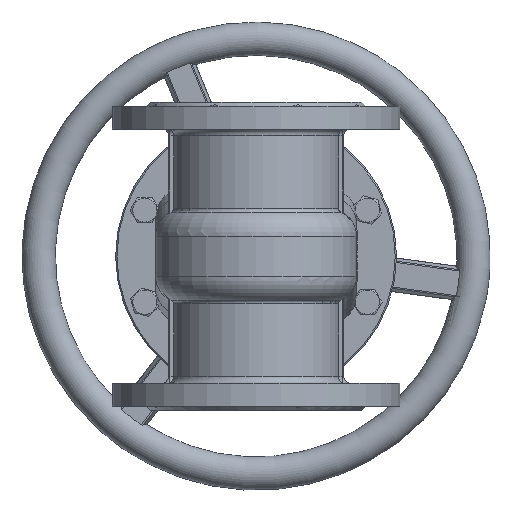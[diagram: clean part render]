
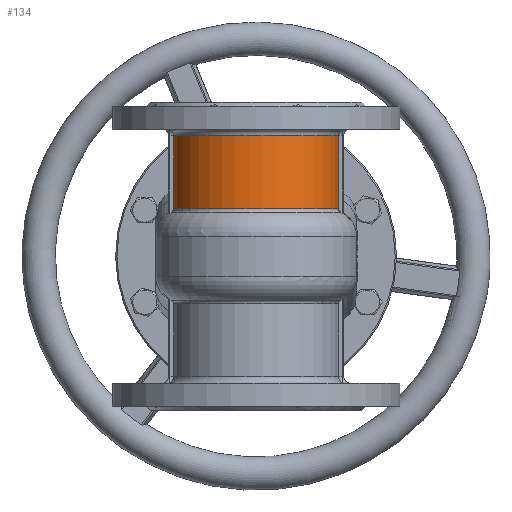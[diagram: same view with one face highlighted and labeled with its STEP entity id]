
A CAD part, front view. The second image highlights one B-rep face of the part: STEP entity #134.
In plain terms, the highlighted cylindrical face has radius 62.5 mm (diameter 125 mm), a partial arc.
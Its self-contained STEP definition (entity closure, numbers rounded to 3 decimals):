
#134=ADVANCED_FACE('',(#6596),#6598,.T.);
#6596=FACE_BOUND('',#6597,.T.);
#6597=EDGE_LOOP('',(#14115,#14116,#14117,#14118));
#6598=CYLINDRICAL_SURFACE('',#6599,62.5);
#6599=AXIS2_PLACEMENT_3D('',#6600,#6601,#6602);
#6600=CARTESIAN_POINT('',(0.,0.,95.));
#6601=DIRECTION('',(0.,0.,1.));
#6602=DIRECTION('',(1.,0.,0.));
#14115=ORIENTED_EDGE('',*,*,#17613,.F.);
#14116=ORIENTED_EDGE('',*,*,#17614,.T.);
#14117=ORIENTED_EDGE('',*,*,#17615,.T.);
#14118=ORIENTED_EDGE('',*,*,#17616,.F.);
#17613=EDGE_CURVE('',#19364,#19365,#19366,.T.);
#17614=EDGE_CURVE('',#19364,#19367,#19368,.T.);
#17615=EDGE_CURVE('',#19367,#19369,#19370,.T.);
#17616=EDGE_CURVE('',#19365,#19369,#19371,.F.);
#19364=VERTEX_POINT('',#22282);
#19365=VERTEX_POINT('',#22283);
#19366=CIRCLE('',#22284,62.5);
#19367=VERTEX_POINT('',#22288);
#19368=LINE('',#22289,#22290);
#19369=VERTEX_POINT('',#22292);
#19370=CIRCLE('',#22293,62.5);
#19371=LINE('',#22297,#22298);
#22282=CARTESIAN_POINT('',(-61.695,-10.,90.));
#22283=CARTESIAN_POINT('',(61.695,-10.,90.));
#22284=AXIS2_PLACEMENT_3D('',#22285,#22286,#22287);
#22285=CARTESIAN_POINT('',(0.,0.,90.));
#22286=DIRECTION('',(0.,0.,1.));
#22287=DIRECTION('',(-0.987,-0.16,0.));
#22288=CARTESIAN_POINT('',(-61.695,-10.,35.463));
#22289=CARTESIAN_POINT('',(-61.695,-10.,90.));
#22290=VECTOR('',#22291,1.);
#22291=DIRECTION('',(0.,0.,-1.));
#22292=CARTESIAN_POINT('',(61.695,-10.,35.463));
#22293=AXIS2_PLACEMENT_3D('',#22294,#22295,#22296);
#22294=CARTESIAN_POINT('',(0.,0.,35.463));
#22295=DIRECTION('',(0.,0.,1.));
#22296=DIRECTION('',(-0.987,-0.16,0.));
#22297=CARTESIAN_POINT('',(61.695,-10.,35.463));
#22298=VECTOR('',#22299,1.);
#22299=DIRECTION('',(0.,0.,1.));
